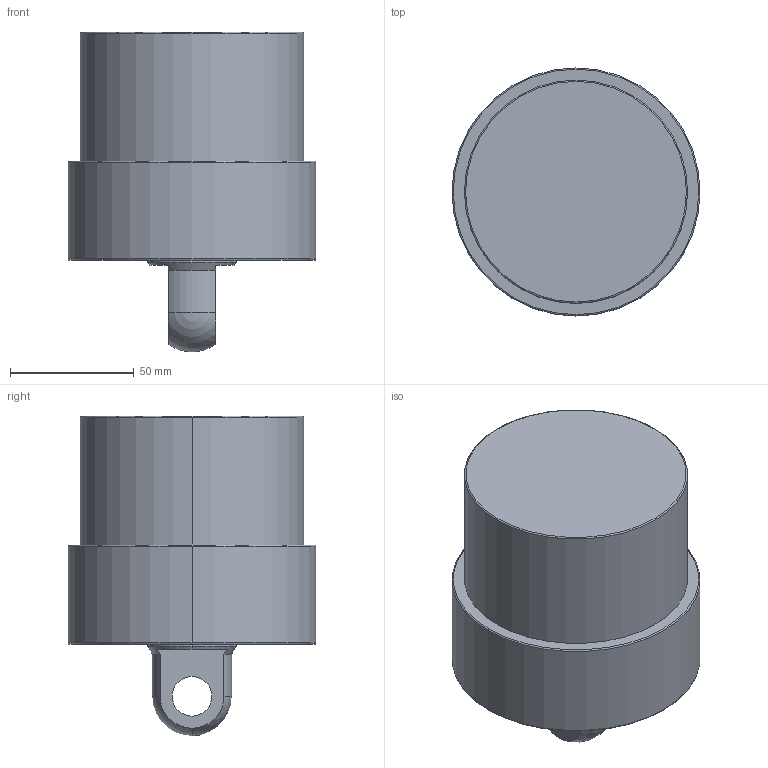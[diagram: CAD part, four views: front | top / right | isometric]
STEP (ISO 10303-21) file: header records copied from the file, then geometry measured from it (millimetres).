
FILE_DESCRIPTION (( 'STEP AP203' ), '1' );
FILE_NAME ('CLLU-090CP-030.STEP', '2020-01-13T03:13:56', ( '' ), ( '' ), 'SwSTEP 2.0', 'SolidWorks 2015', '' );
FILE_SCHEMA (( 'CONFIG_CONTROL_DESIGN' ));
Length unit declared in the file: millimetre
Products named in the file (1): CLLU-090CP-030
Bounding box: 100 x 100 x 129 mm (x, y, z)
Volume: 654652.8 mm3; surface area: 48837.5 mm2
Topology: 1 solids, 1 shells, 57 faces, 134 edges, 77 vertices
Faces by surface type: cylinder 22, cone 18, plane 9, torus 6, sphere 2
Entity records: 1643 total; most frequent: DIRECTION 308, CARTESIAN_POINT 267, ORIENTED_EDGE 244, AXIS2_PLACEMENT_3D 132, EDGE_CURVE 122, VERTEX_POINT 75, CIRCLE 74, EDGE_LOOP 67
